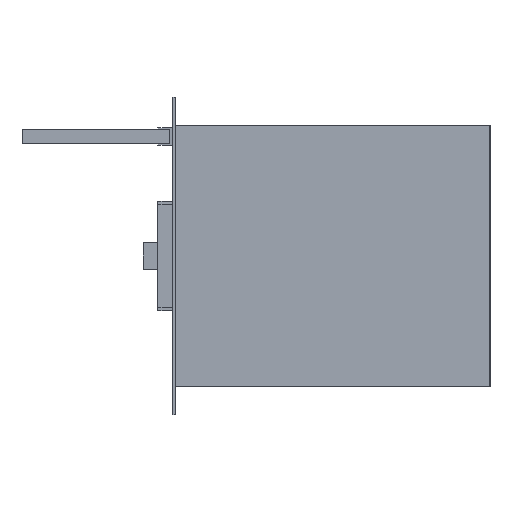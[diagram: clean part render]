
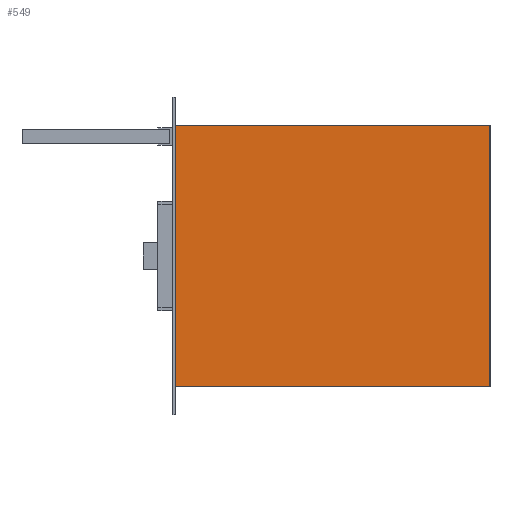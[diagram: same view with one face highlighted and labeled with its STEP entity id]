
A CAD part, left-side view. The second image highlights one B-rep face of the part: STEP entity #549.
In plain terms, the highlighted planar face has unit normal (-1, 0, 0).
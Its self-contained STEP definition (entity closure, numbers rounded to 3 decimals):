
#4 = EDGE_CURVE ( 'NONE', #1911, #1940, #638, .T. ) ;
#19 = CARTESIAN_POINT ( 'NONE',  ( -543., -213., -88.5 ) ) ;
#150 = CARTESIAN_POINT ( 'NONE',  ( -543., 0., -88.5 ) ) ;
#187 = ORIENTED_EDGE ( 'NONE', *, *, #721, .T. ) ;
#222 = LINE ( 'NONE', #150, #501 ) ;
#241 = EDGE_LOOP ( 'NONE', ( #1273, #1311, #187, #376 ) ) ;
#310 = CARTESIAN_POINT ( 'NONE',  ( -543., 0., 88.5 ) ) ;
#327 = CARTESIAN_POINT ( 'NONE',  ( -543., 0., -88.5 ) ) ;
#376 = ORIENTED_EDGE ( 'NONE', *, *, #2085, .T. ) ;
#501 = VECTOR ( 'NONE', #1804, 1000. ) ;
#549 = ADVANCED_FACE ( 'NONE', ( #1939 ), #1606, .F. ) ;
#558 = VECTOR ( 'NONE', #1328, 1000. ) ;
#603 = VERTEX_POINT ( 'NONE', #310 ) ;
#638 = LINE ( 'NONE', #2166, #558 ) ;
#721 = EDGE_CURVE ( 'NONE', #1940, #603, #1167, .T. ) ;
#735 = DIRECTION ( 'NONE',  ( 0., -1., 0. ) ) ;
#736 = DIRECTION ( 'NONE',  ( 1., 0., 0. ) ) ;
#1167 = LINE ( 'NONE', #1503, #1752 ) ;
#1273 = ORIENTED_EDGE ( 'NONE', *, *, #2075, .T. ) ;
#1311 = ORIENTED_EDGE ( 'NONE', *, *, #4, .T. ) ;
#1328 = DIRECTION ( 'NONE',  ( 0., 0., 1. ) ) ;
#1331 = AXIS2_PLACEMENT_3D ( 'NONE', #1770, #736, #1573 ) ;
#1444 = VERTEX_POINT ( 'NONE', #327 ) ;
#1503 = CARTESIAN_POINT ( 'NONE',  ( -543., -213., 88.5 ) ) ;
#1573 = DIRECTION ( 'NONE',  ( 0., 0., -1. ) ) ;
#1589 = CARTESIAN_POINT ( 'NONE',  ( -543., -213., 88.5 ) ) ;
#1606 = PLANE ( 'NONE',  #1331 ) ;
#1752 = VECTOR ( 'NONE', #2188, 1000. ) ;
#1754 = CARTESIAN_POINT ( 'NONE',  ( -543., -213., -88.5 ) ) ;
#1758 = LINE ( 'NONE', #1754, #1962 ) ;
#1770 = CARTESIAN_POINT ( 'NONE',  ( -543., 2., 107.5 ) ) ;
#1804 = DIRECTION ( 'NONE',  ( 0., 0., -1. ) ) ;
#1911 = VERTEX_POINT ( 'NONE', #19 ) ;
#1939 = FACE_OUTER_BOUND ( 'NONE', #241, .T. ) ;
#1940 = VERTEX_POINT ( 'NONE', #1589 ) ;
#1962 = VECTOR ( 'NONE', #735, 1000. ) ;
#2075 = EDGE_CURVE ( 'NONE', #1444, #1911, #1758, .T. ) ;
#2085 = EDGE_CURVE ( 'NONE', #603, #1444, #222, .T. ) ;
#2166 = CARTESIAN_POINT ( 'NONE',  ( -543., -213., -88.5 ) ) ;
#2188 = DIRECTION ( 'NONE',  ( 0., 1., 0. ) ) ;
